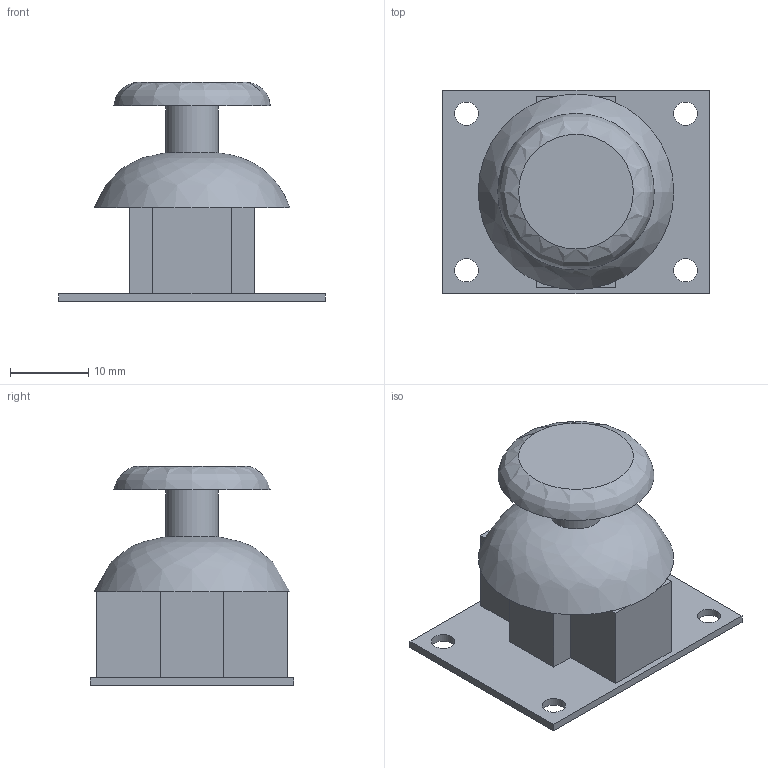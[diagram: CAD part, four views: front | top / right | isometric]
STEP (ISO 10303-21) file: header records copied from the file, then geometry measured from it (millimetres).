
FILE_DESCRIPTION(('FreeCAD Model'),'2;1');
FILE_NAME('Open CASCADE Shape Model','2023-10-13T04:29:37',('Author'),( ''),'Open CASCADE STEP processor 7.5','FreeCAD','Unknown');
FILE_SCHEMA(('AUTOMOTIVE_DESIGN { 1 0 10303 214 1 1 1 1 }'));
Length unit declared in the file: millimetre
Products named in the file (4): JOYSTICK; pad; Pad094; Pad093
Assembly tree (3 placements, depth 2):
  JOYSTICK
    pad
    Pad094
    Pad093
Bounding box: 34 x 26 x 28 mm (x, y, z)
Volume: 8224.5 mm3; surface area: 6601.9 mm2
Topology: 3 solids, 3 shells, 39 faces, 93 edges, 61 vertices
Faces by surface type: plane 27, cylinder 9, revolution 2, cone 1
Full cylindrical faces by diameter (mm): 3 x8, 6.763 x1
Entity records: 2501 total; most frequent: CARTESIAN_POINT 505, DIRECTION 350, LINE 222, VECTOR 222, ORIENTED_EDGE 186, PCURVE 186, DEFINITIONAL_REPRESENTATION 186, EDGE_CURVE 93
